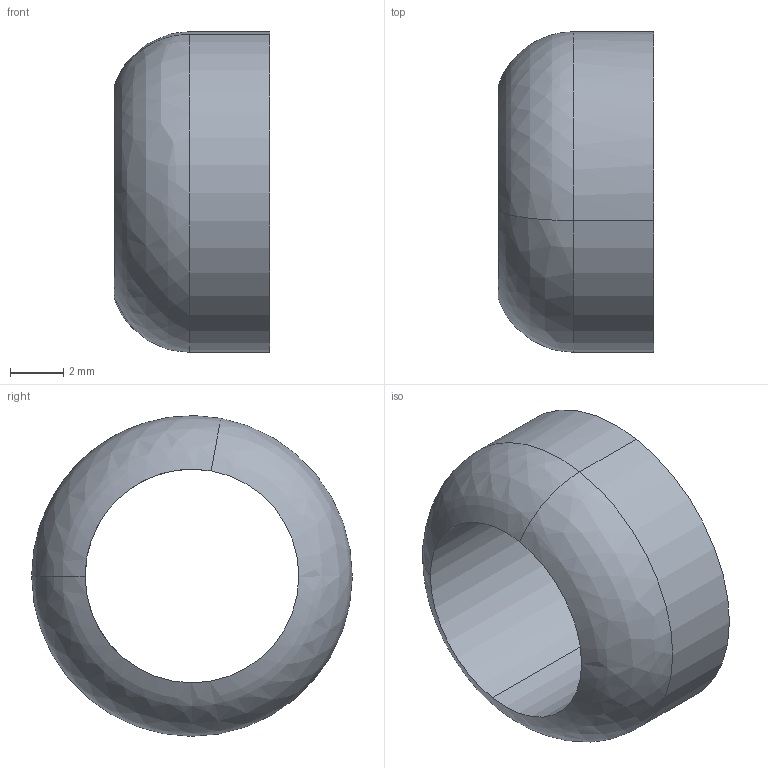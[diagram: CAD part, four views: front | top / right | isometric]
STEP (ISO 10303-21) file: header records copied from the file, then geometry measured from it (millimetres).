
FILE_DESCRIPTION( ('This file contains a STEP AP42 implementation' ,'as created by ZW3D STEP Interface translator.') ,'2;1' );
FILE_NAME( 'zkj-蹟簽.stp' ,'23 9 3.214432', (''), ('ZWCAD Software Co.'), 'Version 1.0', 'ZW3D to STEP translator', '' );
FILE_SCHEMA(('AUTOMOTIVE_DESIGN { 1 0 10303 214 1 1 1 1 }'));
Length unit declared in the file: millimetre
Products named in the file (2): 0; zkj-蹟簽
Bounding box: 5.83 x 12 x 12 mm (x, y, z)
Volume: 313.6 mm3; surface area: 445.3 mm2
Topology: 1 solids, 1 shells, 7 faces, 16 edges, 10 vertices
Faces by surface type: cylinder 4, bspline 2, plane 1
Entity records: 291 total; most frequent: CARTESIAN_POINT 86, DIRECTION 40, ORIENTED_EDGE 32, AXIS2_PLACEMENT_3D 18, EDGE_CURVE 16, CIRCLE 12, VERTEX_POINT 10, EDGE_LOOP 8
